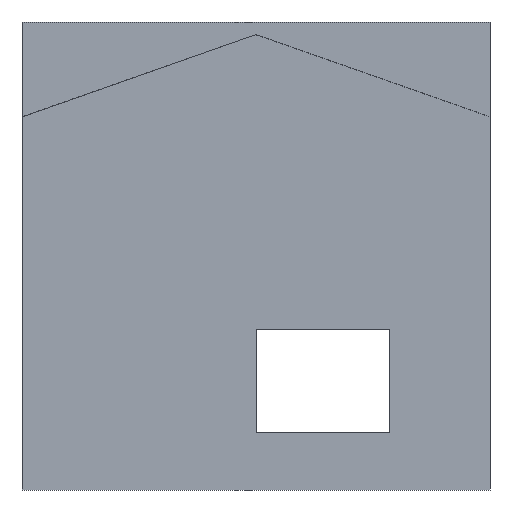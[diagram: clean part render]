
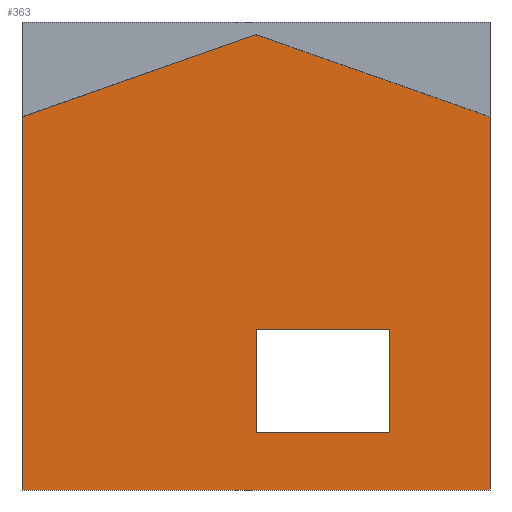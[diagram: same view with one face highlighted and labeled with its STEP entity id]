
A CAD part, left-side view. The second image highlights one B-rep face of the part: STEP entity #363.
In plain terms, the highlighted planar face has unit normal (-1, 0, 0).
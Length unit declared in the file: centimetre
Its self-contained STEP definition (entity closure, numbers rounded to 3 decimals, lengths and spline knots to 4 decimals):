
#26 = VECTOR ( 'NONE', #428, 100. ) ;
#30 = LINE ( 'NONE', #371, #1004 ) ;
#39 = VECTOR ( 'NONE', #97, 100. ) ;
#52 = VERTEX_POINT ( 'NONE', #90 ) ;
#74 = EDGE_CURVE ( 'NONE', #908, #230, #616, .T. ) ;
#77 = ORIENTED_EDGE ( 'NONE', *, *, #880, .T. ) ;
#90 = CARTESIAN_POINT ( 'NONE',  ( 0., 0., 797.2753 ) ) ;
#97 = DIRECTION ( 'NONE',  ( 0., 1., 0. ) ) ;
#109 = CARTESIAN_POINT ( 'NONE',  ( 0., 213.988, 343.9424 ) ) ;
#111 = EDGE_CURVE ( 'NONE', #807, #487, #864, .T. ) ;
#127 = CARTESIAN_POINT ( 'NONE',  ( 0., 213.988, 343.9424 ) ) ;
#131 = CARTESIAN_POINT ( 'NONE',  ( 0., 1000., 797.2753 ) ) ;
#181 = CARTESIAN_POINT ( 'NONE',  ( 0., 1000., 0. ) ) ;
#201 = CARTESIAN_POINT ( 'NONE',  ( 0., 499.1797, 122.1315 ) ) ;
#229 = LINE ( 'NONE', #402, #385 ) ;
#230 = VERTEX_POINT ( 'NONE', #673 ) ;
#239 = ORIENTED_EDGE ( 'NONE', *, *, #1002, .F. ) ;
#252 = ORIENTED_EDGE ( 'NONE', *, *, #74, .T. ) ;
#257 = CARTESIAN_POINT ( 'NONE',  ( 0., 499.1797, 122.1315 ) ) ;
#260 = LINE ( 'NONE', #295, #872 ) ;
#282 = DIRECTION ( 'NONE',  ( 0., 0., -1. ) ) ;
#295 = CARTESIAN_POINT ( 'NONE',  ( 0., 213.988, 122.1315 ) ) ;
#302 = FACE_OUTER_BOUND ( 'NONE', #1085, .T. ) ;
#329 = EDGE_CURVE ( 'NONE', #52, #230, #604, .T. ) ;
#338 = CARTESIAN_POINT ( 'NONE',  ( 0., 1000., 0. ) ) ;
#357 = ORIENTED_EDGE ( 'NONE', *, *, #743, .F. ) ;
#359 = LINE ( 'NONE', #723, #1026 ) ;
#363 = ADVANCED_FACE ( 'NONE', ( #404, #302 ), #915, .F. ) ;
#371 = CARTESIAN_POINT ( 'NONE',  ( 0., 500., 972.8887 ) ) ;
#385 = VECTOR ( 'NONE', #841, 100. ) ;
#397 = VECTOR ( 'NONE', #282, 100. ) ;
#402 = CARTESIAN_POINT ( 'NONE',  ( 0., 1000., 1000. ) ) ;
#404 = FACE_BOUND ( 'NONE', #496, .T. ) ;
#424 = ORIENTED_EDGE ( 'NONE', *, *, #329, .F. ) ;
#428 = DIRECTION ( 'NONE',  ( 0., 0., -1. ) ) ;
#436 = LINE ( 'NONE', #201, #397 ) ;
#440 = EDGE_CURVE ( 'NONE', #732, #697, #583, .T. ) ;
#487 = VERTEX_POINT ( 'NONE', #942 ) ;
#492 = VERTEX_POINT ( 'NONE', #257 ) ;
#496 = EDGE_LOOP ( 'NONE', ( #515, #773, #357, #1054 ) ) ;
#515 = ORIENTED_EDGE ( 'NONE', *, *, #735, .F. ) ;
#531 = DIRECTION ( 'NONE',  ( 0., -1., 0. ) ) ;
#543 = VECTOR ( 'NONE', #531, 100. ) ;
#583 = LINE ( 'NONE', #925, #1008 ) ;
#604 = LINE ( 'NONE', #863, #26 ) ;
#616 = LINE ( 'NONE', #181, #543 ) ;
#651 = AXIS2_PLACEMENT_3D ( 'NONE', #999, #997, #671 ) ;
#671 = DIRECTION ( 'NONE',  ( 0., 0., -1. ) ) ;
#673 = CARTESIAN_POINT ( 'NONE',  ( 0., 0., 0. ) ) ;
#678 = DIRECTION ( 'NONE',  ( 0., -0.943, 0.331 ) ) ;
#697 = VERTEX_POINT ( 'NONE', #816 ) ;
#723 = CARTESIAN_POINT ( 'NONE',  ( 0., 213.988, 122.1315 ) ) ;
#732 = VERTEX_POINT ( 'NONE', #131 ) ;
#735 = EDGE_CURVE ( 'NONE', #1059, #807, #260, .T. ) ;
#743 = EDGE_CURVE ( 'NONE', #487, #492, #436, .T. ) ;
#773 = ORIENTED_EDGE ( 'NONE', *, *, #971, .F. ) ;
#807 = VERTEX_POINT ( 'NONE', #127 ) ;
#816 = CARTESIAN_POINT ( 'NONE',  ( 0., 500., 972.8887 ) ) ;
#841 = DIRECTION ( 'NONE',  ( 0., 0., -1. ) ) ;
#842 = ORIENTED_EDGE ( 'NONE', *, *, #440, .F. ) ;
#863 = CARTESIAN_POINT ( 'NONE',  ( 0., 0., 1000. ) ) ;
#864 = LINE ( 'NONE', #109, #39 ) ;
#872 = VECTOR ( 'NONE', #979, 100. ) ;
#880 = EDGE_CURVE ( 'NONE', #732, #908, #229, .T. ) ;
#902 = DIRECTION ( 'NONE',  ( 0., -1., 0. ) ) ;
#908 = VERTEX_POINT ( 'NONE', #338 ) ;
#915 = PLANE ( 'NONE',  #651 ) ;
#925 = CARTESIAN_POINT ( 'NONE',  ( 0., 1000., 797.2753 ) ) ;
#942 = CARTESIAN_POINT ( 'NONE',  ( 0., 499.1797, 343.9424 ) ) ;
#971 = EDGE_CURVE ( 'NONE', #492, #1059, #359, .T. ) ;
#979 = DIRECTION ( 'NONE',  ( 0., 0., 1. ) ) ;
#987 = DIRECTION ( 'NONE',  ( 0., -0.943, -0.331 ) ) ;
#997 = DIRECTION ( 'NONE',  ( 1., 0., 0. ) ) ;
#999 = CARTESIAN_POINT ( 'NONE',  ( 0., 1000., 1000. ) ) ;
#1002 = EDGE_CURVE ( 'NONE', #697, #52, #30, .T. ) ;
#1004 = VECTOR ( 'NONE', #987, 100. ) ;
#1008 = VECTOR ( 'NONE', #678, 100. ) ;
#1026 = VECTOR ( 'NONE', #902, 100. ) ;
#1050 = CARTESIAN_POINT ( 'NONE',  ( 0., 213.988, 122.1315 ) ) ;
#1054 = ORIENTED_EDGE ( 'NONE', *, *, #111, .F. ) ;
#1059 = VERTEX_POINT ( 'NONE', #1050 ) ;
#1085 = EDGE_LOOP ( 'NONE', ( #424, #239, #842, #77, #252 ) ) ;
